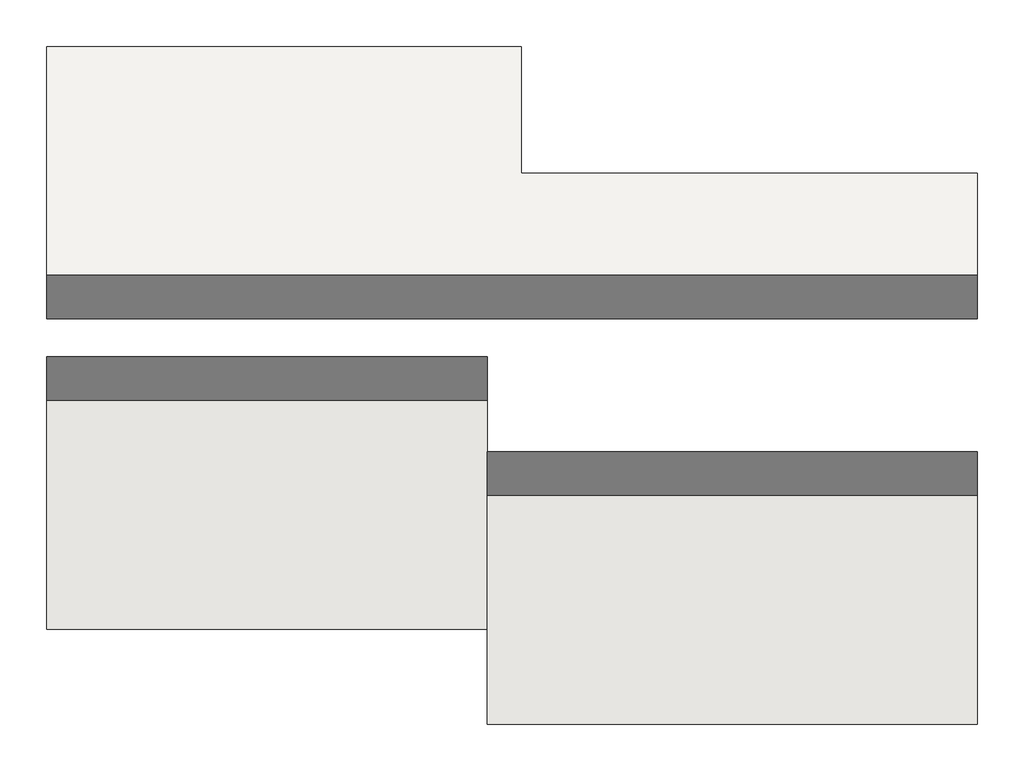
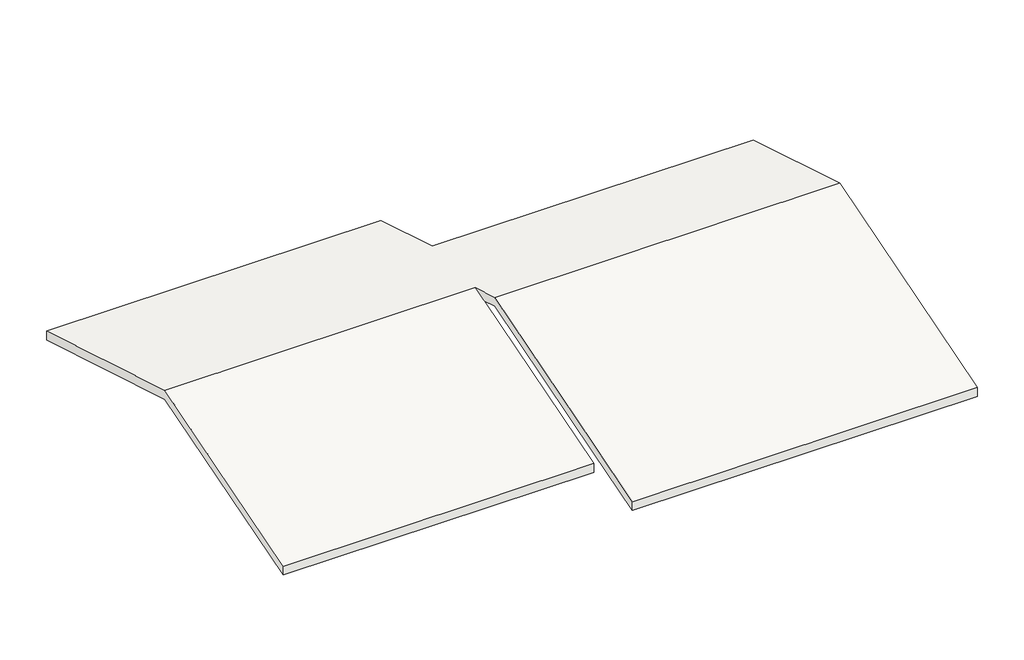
# One storey: 1 roof.
"""IFC4 building model written with IfcOpenShell, lengths in millimetres."""

from ifc_helpers import new_model, si_unit, origin, place, context, project, spatial, faceted_brep, element, save

model = new_model("IFC4")

# Units and contexts
model_context = context("Model", 3, world=origin())
ifc_project = project(units=[si_unit("LENGTHUNIT", "METRE", prefix="MILLI")], contexts=[model_context])

# Site, building, storey
site = spatial("IfcSite", under=ifc_project)
building = spatial("IfcBuilding", under=site)
storey = spatial("IfcBuildingStorey", under=building, Name="ARASE 1", Elevation=2750.0)

# Roof
placement = place(None, origin())
element("IfcRoof", 1, ObjectType="Toit - 200 mm", at=placement, inside=storey, context=model_context, shape_type="Brep", body=[
    faceted_brep([(-10808.2926959, 9287.3797732, 2660.0), (-10808.2926959, 7287.3797732, 3260.0), (-3608.2926959, 7287.3797732, 3260.0), (-3608.2926959, 3937.3797732, 4265.0), (-11348.2926959, 3937.3797732, 4265.0), (-11348.2926959, 4339.3695562, 4144.4030651), (-11348.2926959, 4687.3797732, 4040.0), (-18308.2926959, 4687.3797732, 4040.0), (-18308.2926959, 9287.3797732, 2660.0), (-11348.2926959, -1412.6202268, 2660.0), (-11348.2926959, 87.3797732, 3110.0), (-3608.2926959, -1412.6202268, 2660.0), (-11348.2926959, 87.3797732, 2660.0), (-18308.2926959, 87.3797732, 2660.0), (-10808.2926959, 7287.3797732, 3468.8061302), (-10808.2926959, 9287.3797732, 2868.8061302), (-18308.2926959, 9287.3797732, 2868.8061302), (-18308.2926959, 4687.3797732, 4248.8061302), (-11348.2926959, 4687.3797732, 4248.8061302), (-11348.2926959, 3937.3797732, 4473.8061302), (-3608.2926959, 3937.3797732, 4473.8061302), (-3608.2926959, 7287.3797732, 3468.8061302), (-11348.2926959, 87.3797732, 3318.8061302), (-11348.2926959, -1412.6202268, 2868.8061302), (-3608.2926959, -1412.6202268, 2868.8061302), (-18308.2926959, 87.3797732, 2868.8061302), (-11348.2926959, 87.3797732, 2868.8061302)], [[[0, 1, 2, 3, 4, 5, 6, 7, 8]], [[9, 10, 4, 3, 11]], [[12, 13, 7, 6]], [[14, 15, 16, 17, 18, 19, 20, 21]], [[22, 23, 24, 20, 19]], [[25, 26, 5, 18, 17]], [[8, 16, 15, 0]], [[12, 26, 25, 13]], [[11, 24, 23, 9]], [[1, 14, 21, 2]], [[21, 20, 24, 11, 3, 2]], [[23, 22, 19, 18, 5, 4, 10, 9]], [[5, 26, 12, 6]], [[25, 17, 16, 8, 7, 13]], [[15, 14, 1, 0]]]),
])

save(model, "model.ifc")
